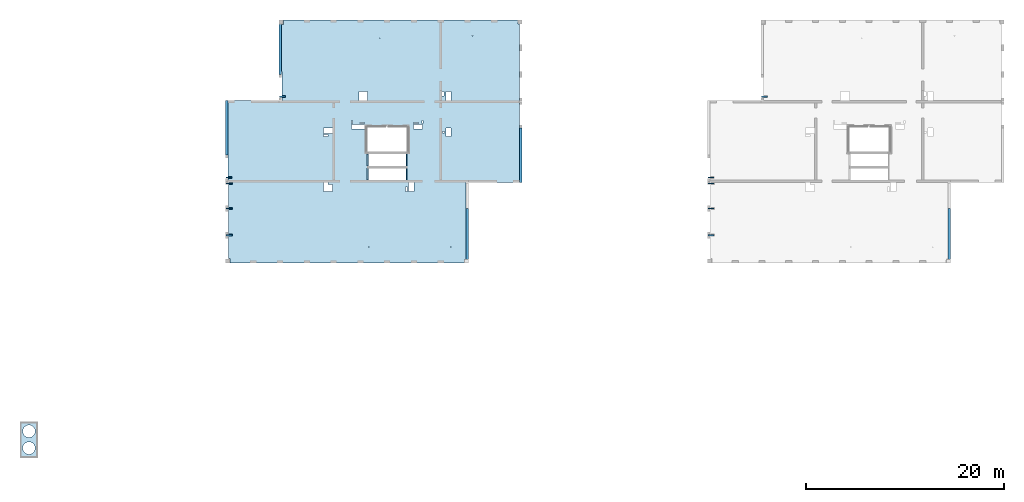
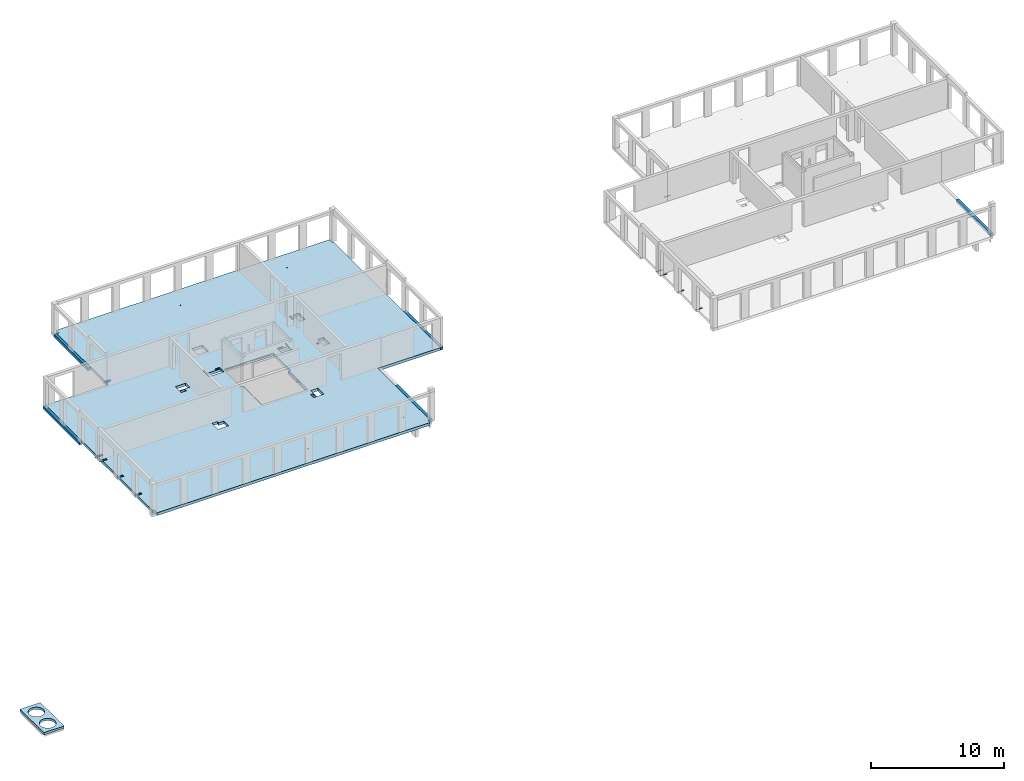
# One storey, part 2 of 12: 10 beams, 7 slabs, 35 openings.
"""IFC2X3 building model written with IfcOpenShell, lengths in millimetres."""

from ifc_helpers import new_model, entity, si_unit, converted_unit, derived_unit, direction, frame, frame_2d, origin, origin_2d_with_axis, place, context, subcontext, project, spatial, polyline, rectangle, circle, outline, extrude, source, transform, mapped, material, layer, layer_set, layer_usage, type_object, type_shapes, element, save


model = new_model("IFC2X3")

# Units and contexts
model_context = context("Model", 3, precision=0.01, world=origin(), true_north=direction((6.12303176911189e-17, 1.0)))
body_context = subcontext(model_context, "Body", "Model", "MODEL_VIEW")
ifc_project = project(units=[si_unit("LENGTHUNIT", "METRE", prefix="MILLI"), si_unit("AREAUNIT", "SQUARE_METRE"), si_unit("VOLUMEUNIT", "CUBIC_METRE"), converted_unit("PLANEANGLEUNIT", "DEGREE", entity("IfcRatioMeasure", 0.0174532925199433), si_unit("PLANEANGLEUNIT", "RADIAN"), dimensions=[0, 0, 0, 0, 0, 0, 0]), si_unit("MASSUNIT", "GRAM", prefix="KILO"), derived_unit("MASSDENSITYUNIT", [(si_unit("MASSUNIT", "GRAM", prefix="KILO"), 1), (si_unit("LENGTHUNIT", "METRE"), -3)]), si_unit("TIMEUNIT", "SECOND"), si_unit("FREQUENCYUNIT", "HERTZ"), si_unit("THERMODYNAMICTEMPERATUREUNIT", "DEGREE_CELSIUS"), derived_unit("THERMALTRANSMITTANCEUNIT", [(si_unit("MASSUNIT", "GRAM", prefix="KILO"), 1), (si_unit("THERMODYNAMICTEMPERATUREUNIT", "KELVIN"), -1), (si_unit("TIMEUNIT", "SECOND"), -3)]), derived_unit("VOLUMETRICFLOWRATEUNIT", [(si_unit("LENGTHUNIT", "METRE"), 3), (si_unit("TIMEUNIT", "SECOND"), -1)]), si_unit("ELECTRICCURRENTUNIT", "AMPERE"), si_unit("ELECTRICVOLTAGEUNIT", "VOLT"), si_unit("POWERUNIT", "WATT"), si_unit("FORCEUNIT", "NEWTON", prefix="KILO"), si_unit("ILLUMINANCEUNIT", "LUX"), si_unit("LUMINOUSFLUXUNIT", "LUMEN"), si_unit("LUMINOUSINTENSITYUNIT", "CANDELA"), derived_unit("USERDEFINED", [(si_unit("MASSUNIT", "GRAM", prefix="KILO"), -1), (si_unit("LENGTHUNIT", "METRE"), -2), (si_unit("TIMEUNIT", "SECOND"), 3), (si_unit("LUMINOUSFLUXUNIT", "LUMEN"), 1)]), derived_unit("LINEARVELOCITYUNIT", [(si_unit("LENGTHUNIT", "METRE"), 1), (si_unit("TIMEUNIT", "SECOND"), -1)]), si_unit("PRESSUREUNIT", "PASCAL"), derived_unit("USERDEFINED", [(si_unit("LENGTHUNIT", "METRE"), -2), (si_unit("MASSUNIT", "GRAM", prefix="KILO"), 1), (si_unit("TIMEUNIT", "SECOND"), -2)])], contexts=[model_context])

# Site, building, storey
site_placement = place(None, origin())
site = spatial("IfcSite", under=ifc_project, at=site_placement, Name="Default", CompositionType="ELEMENT")
building_placement = place(site_placement, origin())
building = spatial("IfcBuilding", under=site, at=building_placement, Name="niet gebruiken", CompositionType="ELEMENT")
storey_placement = place(building_placement, frame((0.0, 0.0, 18540.0)))
storey = spatial("IfcBuildingStorey", under=building, at=storey_placement, Name="06 zesde verdieping", CompositionType="ELEMENT", Elevation=18540.0)

# Beams
ifc_material_1 = material(Name="NLRS_h2_staal")
beam_type_1 = type_object("IfcBeamType", Name="ligger stripstaal RECT_120x10", PredefinedType="BEAM", material=ifc_material_1)
shared_shape_1 = source(origin(), body_context, "Body", "SweptSolid", [
    extrude(rectangle(XDim=599.999999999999, YDim=120.0, at=origin_2d_with_axis()), frame((0.0, 0.0, -5.0), z_axis=(0.0, 0.0, 1.0), x_axis=(-1.0, 0.0, 0.0)), (0.0, 0.0, 1.0), 9.99999999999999),
    extrude(rectangle(XDim=599.999999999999, YDim=120.0, at=origin_2d_with_axis()), frame((0.0, 0.0, -5.0), z_axis=(0.0, 0.0, 1.0), x_axis=(-1.0, 0.0, 0.0)), (0.0, 0.0, 1.0), 9.99999999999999),
])
type_shapes(beam_type_1, [shared_shape_1])
for number, where, name in (
    (1, (27235.0, 31556.0, -115.0), "NLRS_28.11_SF_WPB_stalen ligger stripstaal_gen:ligger stripstaal RECT_120x10"),
    (2, (27235.0, 34256.0, -115.0), "NLRS_28.11_SF_WPB_stalen ligger stripstaal_gen:ligger stripstaal RECT_120x10"),
    (3, (27235.0, 36766.0, -115.0), "NLRS_28.11_SF_WPB_stalen ligger stripstaal_gen:ligger stripstaal RECT_120x10"),
    (4, (75835.0, 31556.0, -115.0), "NLRS_28.11_SF_WPB_stalen ligger stripstaal_gen:ligger stripstaal RECT_120x10"),
    (5, (75835.0, 34256.0, -115.0), "NLRS_28.11_SF_WPB_stalen ligger stripstaal_gen:ligger stripstaal RECT_120x10"),
    (6, (75835.0, 36766.0, -115.0), "NLRS_28.11_SF_WPB_stalen ligger stripstaal_gen:ligger stripstaal RECT_120x10"),
):
    element("IfcBeam", number, at=place(storey_placement, frame(where)), inside=storey, type_object=beam_type_1, material=ifc_material_1, Name=name, ObjectType="ligger stripstaal RECT_120x10", context=body_context, shape_type="MappedRepresentation", body=[
        mapped(shared_shape_1, transform((0.0, 0.0, 0.0), scale=1.0)),
    ])
beam_type_2 = type_object("IfcBeamType", Name="ligger stripstaal RECT_120x10", PredefinedType="BEAM", material=ifc_material_1)
shared_shape_2 = source(origin(), body_context, "Body", "SweptSolid", [
    extrude(rectangle(XDim=120.0, YDim=600.000000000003, at=origin_2d_with_axis()), frame((0.0, 0.0, -5.0), z_axis=(0.0, 0.0, 1.0), x_axis=(0.0, 1.0, 0.0)), (0.0, 0.0, 1.0), 9.99999999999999),
    extrude(rectangle(XDim=120.0, YDim=600.000000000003, at=origin_2d_with_axis()), frame((0.0, 0.0, -5.0), z_axis=(0.0, 0.0, 1.0), x_axis=(0.0, 1.0, 0.0)), (0.0, 0.0, 1.0), 9.99999999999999),
])
type_shapes(beam_type_2, [shared_shape_2])
for number, where, name in (
    (7, (75835.0, 37386.0, -115.0), "NLRS_28.11_SF_WPB_stalen ligger stripstaal_gen:ligger stripstaal RECT_120x10"),
    (8, (27235.0, 37386.0, -115.0), "NLRS_28.11_SF_WPB_stalen ligger stripstaal_gen:ligger stripstaal RECT_120x10"),
    (9, (81235.0, 45521.0, -115.0), "NLRS_28.11_SF_WPB_stalen ligger stripstaal_gen:ligger stripstaal RECT_120x10"),
    (10, (32635.0, 45521.0, -115.0), "NLRS_28.11_SF_WPB_stalen ligger stripstaal_gen:ligger stripstaal RECT_120x10"),
):
    element("IfcBeam", number, at=place(storey_placement, frame(where)), inside=storey, type_object=beam_type_2, material=ifc_material_1, Name=name, ObjectType="ligger stripstaal RECT_120x10", context=body_context, shape_type="MappedRepresentation", body=[
        mapped(shared_shape_2, transform((0.0, 0.0, 0.0), scale=1.0)),
    ])

# Slab, openings
ifc_material_2 = material(Name="NLRS_f2_beton ihwg")
ifc_layer_1 = layer(ifc_material_2, 250.0)
ifc_layer_set_1 = layer_set([ifc_layer_1], Name="Floor:NLRS_23.21_FL_beton ihwg d=250_gen")
ifc_layer_usage_1 = layer_usage(ifc_layer_set_1, "AXIS3", "POSITIVE", 0.0)
slab_1_placement = place(storey_placement, frame((26900.0, 28756.0, -340.0)))
slab_1 = element("IfcSlab", 11, at=slab_1_placement, inside=storey, material=ifc_layer_usage_1, Name="Floor:NLRS_23.21_FL_beton ihwg d=250_gen", ObjectType="Floor:NLRS_23.21_FL_beton ihwg d=250_gen", PredefinedType="FLOOR", context=body_context, shape_type="SweptSolid", body=[
    extrude(outline(polyline([(8994.99996701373, 12250.0), (-14665.0, 12250.0), (-14665.0, 11840.0), (-14805.0, 11840.0), (-14805.0, 4060.0), (-14825.0, 4060.0), (-14825.0, -4150.0), (-9425.0, -4150.0), (-9425.0, -11890.0), (-9265.00003298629, -11890.0), (-9265.00003298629, -12250.0), (14395.0, -12250.0), (14395.0, -11820.0), (14535.0, -11820.0), (14535.0, -4060.0), (14555.0, -4060.0), (14555.0, -1350.0), (14825.0, -1350.0), (14825.0, 4150.0), (9155.0, 4150.0), (9155.0, 7060.0), (9175.0, 7060.0), (9175.0, 11820.0), (8994.99996701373, 11820.0), (8994.99996701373, 12250.0)])), frame((14825.0, 12250.0, 250.0), z_axis=(0.0, 0.0, -1.0), x_axis=(-1.0, 0.0, 0.0)), (0.0, 0.0, 1.0), 249.999999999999),
])
opening_1_placement = place(storey_placement, frame((26900.0, 28756.0, -340.0)))
element("IfcOpeningElement", 12, at=opening_1_placement, cuts=slab_1, ObjectType="Opening", context=body_context, shape_type="SweptSolid", body=[
    extrude(circle(Radius=37.5, at=frame_2d((-7875.0, -10650.0), x_axis=(1.0, 0.0))), frame((14825.0, 12250.0, 250.0), z_axis=(0.0, 0.0, -1.0), x_axis=(-1.0, 0.0, 0.0)), (0.0, 0.0, 1.0), 249.999999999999),
])
opening_2_placement = place(storey_placement, frame((26900.0, 28756.0, -340.0)))
element("IfcOpeningElement", 13, at=opening_2_placement, cuts=slab_1, ObjectType="Opening", context=body_context, shape_type="SweptSolid", body=[
    extrude(circle(Radius=37.5, at=frame_2d((-10075.0, 10650.0), x_axis=(1.0, 0.0))), frame((14825.0, 12250.0, 250.0), z_axis=(0.0, 0.0, -1.0), x_axis=(-1.0, 0.0, 0.0)), (0.0, 0.0, 1.0), 249.999999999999),
])
opening_3_placement = place(storey_placement, frame((26900.0, 28756.0, -340.0)))
element("IfcOpeningElement", 14, at=opening_3_placement, cuts=slab_1, ObjectType="Opening", context=body_context, shape_type="SweptSolid", body=[
    extrude(circle(Radius=37.5, at=frame_2d((-725.0, 10400.0), x_axis=(1.0, 0.0))), frame((14825.0, 12250.0, 250.0), z_axis=(0.0, 0.0, -1.0), x_axis=(-1.0, 0.0, 0.0)), (0.0, 0.0, 1.0), 249.999999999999),
])
opening_4_placement = place(storey_placement, frame((26900.0, 28756.0, -340.0)))
element("IfcOpeningElement", 15, at=opening_4_placement, cuts=slab_1, ObjectType="Opening", context=body_context, shape_type="SweptSolid", body=[
    extrude(circle(Radius=37.5, at=frame_2d((375.0, -10650.0), x_axis=(1.0, 0.0))), frame((14825.0, 12250.0, 250.0), z_axis=(0.0, 0.0, -1.0), x_axis=(-1.0, 0.0, 0.0)), (0.0, 0.0, 1.0), 249.999999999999),
])
opening_5_placement = place(slab_1_placement, origin())
element("IfcOpeningElement", 16, at=opening_5_placement, cuts=slab_1, ObjectType="Opening", context=body_context, shape_type="SweptSolid", body=[
    extrude(rectangle(XDim=110.000000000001, YDim=1220.0, at=origin_2d_with_axis()), frame((14344.9999671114, 10380.0, 210.0)), (0.0, 0.0, 1.0), 39.9999999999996),
])
opening_6_placement = place(slab_1_placement, origin())
element("IfcOpeningElement", 17, at=opening_6_placement, cuts=slab_1, ObjectType="Opening", context=body_context, shape_type="SweptSolid", body=[
    extrude(rectangle(XDim=110.000000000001, YDim=1220.0, at=origin_2d_with_axis()), frame((18255.0, 10380.0, 210.0)), (0.0, 0.0, 1.0), 39.9999999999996),
])
opening_7_placement = place(slab_1_placement, origin())
element("IfcOpeningElement", 18, at=opening_7_placement, cuts=slab_1, ObjectType="Opening", context=body_context, shape_type="SweptSolid", body=[
    extrude(rectangle(XDim=110.000000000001, YDim=1220.0, at=origin_2d_with_axis()), frame((18255.0, 8960.0, 210.0)), (0.0, 0.0, 1.0), 39.9999999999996),
])
opening_8_placement = place(slab_1_placement, origin())
element("IfcOpeningElement", 19, at=opening_8_placement, cuts=slab_1, ObjectType="Opening", context=body_context, shape_type="SweptSolid", body=[
    extrude(rectangle(XDim=110.000000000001, YDim=1220.0, at=origin_2d_with_axis()), frame((14344.9997832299, 8960.0, 210.0)), (0.0, 0.0, 1.0), 39.9999999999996),
])
opening_9_placement = place(slab_1_placement, origin())
element("IfcOpeningElement", 20, at=opening_9_placement, cuts=slab_1, ObjectType="Opening", context=body_context, shape_type="SweptSolid", body=[
    extrude(rectangle(XDim=200.000000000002, YDim=400.000000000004, at=origin_2d_with_axis()), frame((490.0, 2800.0, 220.0), z_axis=(0.0, 0.0, 1.0), x_axis=(0.0, -1.0, 0.0)), (0.0, 0.0, 1.0), 29.9999999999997),
])
opening_10_placement = place(slab_1_placement, origin())
element("IfcOpeningElement", 21, at=opening_10_placement, cuts=slab_1, ObjectType="Opening", context=body_context, shape_type="SweptSolid", body=[
    extrude(rectangle(XDim=200.000000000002, YDim=400.000000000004, at=origin_2d_with_axis()), frame((490.0, 5500.0, 220.0), z_axis=(0.0, 0.0, 1.0), x_axis=(0.0, -1.0, 0.0)), (0.0, 0.0, 1.0), 29.9999999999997),
])
opening_11_placement = place(slab_1_placement, origin())
element("IfcOpeningElement", 22, at=opening_11_placement, cuts=slab_1, ObjectType="Opening", context=body_context, shape_type="SweptSolid", body=[
    extrude(rectangle(XDim=200.000000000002, YDim=400.000000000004, at=origin_2d_with_axis()), frame((490.0, 8000.0, 220.0), z_axis=(0.0, 0.0, 1.0), x_axis=(0.0, -1.0, 0.0)), (0.0, 0.0, 1.0), 29.9999999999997),
])
opening_12_placement = place(slab_1_placement, origin())
element("IfcOpeningElement", 23, at=opening_12_placement, cuts=slab_1, ObjectType="Opening", context=body_context, shape_type="SweptSolid", body=[
    extrude(rectangle(XDim=400.000000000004, YDim=200.000000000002, at=origin_2d_with_axis()), frame((470.0, 8630.0, 220.0)), (0.0, 0.0, 1.0), 29.9999999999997),
])
opening_13_placement = place(slab_1_placement, origin())
element("IfcOpeningElement", 24, at=opening_13_placement, cuts=slab_1, ObjectType="Opening", context=body_context, shape_type="SweptSolid", body=[
    extrude(rectangle(XDim=400.000000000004, YDim=199.999999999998, at=origin_2d_with_axis()), frame((5870.0, 16765.0, 220.0)), (0.0, 0.0, 1.0), 29.9999999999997),
])
opening_14_placement = place(slab_1_placement, origin())
element("IfcOpeningElement", 25, at=opening_14_placement, cuts=slab_1, ObjectType="Opening", context=body_context, shape_type="SweptSolid", body=[
    extrude(rectangle(XDim=900.000000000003, YDim=700.000000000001, at=origin_2d_with_axis()), frame((10325.0, 7550.0, 0.0), z_axis=(0.0, 0.0, 1.0), x_axis=(-1.0, 0.0, 0.0)), (0.0, 0.0, 1.0), 249.999999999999),
])
opening_15_placement = place(slab_1_placement, origin())
element("IfcOpeningElement", 26, at=opening_15_placement, cuts=slab_1, ObjectType="Opening", context=body_context, shape_type="SweptSolid", body=[
    extrude(rectangle(XDim=200.000000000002, YDim=450.000000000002, at=origin_2d_with_axis()), frame((10100.0, 8000.0, 0.0), z_axis=(0.0, 0.0, 1.0), x_axis=(0.0, -1.0, 0.0)), (0.0, 0.0, 1.0), 249.999999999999),
])
opening_16_placement = place(slab_1_placement, origin())
element("IfcOpeningElement", 27, at=opening_16_placement, cuts=slab_1, ObjectType="Opening", context=body_context, shape_type="SweptSolid", body=[
    extrude(rectangle(XDim=900.000000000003, YDim=499.999999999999, at=origin_2d_with_axis()), frame((22475.0, 13180.0, 0.0), z_axis=(0.0, 0.0, 1.0), x_axis=(0.0, 1.0, 0.0)), (0.0, 0.0, 1.0), 249.999999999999),
])
opening_17_placement = place(slab_1_placement, origin())
element("IfcOpeningElement", 28, at=opening_17_placement, cuts=slab_1, ObjectType="Opening", context=body_context, shape_type="SweptSolid", body=[
    extrude(rectangle(XDim=450.000000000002, YDim=900.000000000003, at=origin_2d_with_axis()), frame((19430.0, 13720.0, 0.0), z_axis=(0.0, 0.0, 1.0), x_axis=(0.0, -1.0, 0.0)), (0.0, 0.0, 1.0), 249.999999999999),
])
opening_18_placement = place(slab_1_placement, origin())
element("IfcOpeningElement", 29, at=opening_18_placement, cuts=slab_1, ObjectType="Opening", context=body_context, shape_type="SweptSolid", body=[
    extrude(rectangle(XDim=900.000000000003, YDim=900.000000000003, at=origin_2d_with_axis()), frame((13885.0, 16850.0, 0.0), z_axis=(0.0, 0.0, 1.0), x_axis=(-1.0, 0.0, 0.0)), (0.0, 0.0, 1.0), 249.999999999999),
])
opening_19_placement = place(slab_1_placement, origin())
element("IfcOpeningElement", 30, at=opening_19_placement, cuts=slab_1, ObjectType="Opening", context=body_context, shape_type="SweptSolid", body=[
    extrude(rectangle(XDim=900.000000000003, YDim=600.000000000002, at=origin_2d_with_axis()), frame((10325.0, 13330.0, 0.0), z_axis=(0.0, 0.0, 1.0), x_axis=(-1.0, 0.0, 0.0)), (0.0, 0.0, 1.0), 249.999999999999),
])
opening_20_placement = place(slab_1_placement, origin())
element("IfcOpeningElement", 31, at=opening_20_placement, cuts=slab_1, ObjectType="Opening", context=body_context, shape_type="SweptSolid", body=[
    extrude(rectangle(XDim=900.000000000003, YDim=499.999999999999, at=origin_2d_with_axis()), frame((22475.0, 16850.0, 0.0), z_axis=(0.0, 0.0, 1.0), x_axis=(0.0, 1.0, 0.0)), (0.0, 0.0, 1.0), 249.999999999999),
])
opening_21_placement = place(slab_1_placement, origin())
element("IfcOpeningElement", 32, at=opening_21_placement, cuts=slab_1, ObjectType="Opening", context=body_context, shape_type="SweptSolid", body=[
    extrude(rectangle(XDim=899.999999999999, YDim=600.000000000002, at=origin_2d_with_axis()), frame((18729.9818996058, 7650.0, 0.0), z_axis=(0.0, 0.0, 1.0), x_axis=(0.0, 1.0, 0.0)), (0.0, 0.0, 1.0), 249.999999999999),
])
opening_22_placement = place(slab_1_placement, origin())
element("IfcOpeningElement", 33, at=opening_22_placement, cuts=slab_1, ObjectType="Opening", context=body_context, shape_type="SweptSolid", body=[
    extrude(rectangle(XDim=1760.00000000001, YDim=23.0000000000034, at=origin_2d_with_axis()), frame((17354.999849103, 13751.5, 180.0)), (0.0, 0.0, 1.0), 39.9999999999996),
])
opening_23_placement = place(slab_1_placement, origin())
element("IfcOpeningElement", 34, at=opening_23_placement, cuts=slab_1, ObjectType="Opening", context=body_context, shape_type="SweptSolid", body=[
    extrude(rectangle(XDim=1760.00000000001, YDim=23.0000000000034, at=origin_2d_with_axis()), frame((15244.9998491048, 13751.5, 180.0)), (0.0, 0.0, 1.0), 39.9999999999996),
])
opening_24_placement = place(slab_1_placement, origin())
element("IfcOpeningElement", 35, at=opening_24_placement, cuts=slab_1, ObjectType="Opening", context=body_context, shape_type="SweptSolid", body=[
    extrude(rectangle(XDim=100.000000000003, YDim=490.000000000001, at=origin_2d_with_axis()), frame((19225.0, 14090.0, 0.0), z_axis=(0.0, 0.0, 1.0), x_axis=(0.0, -1.0, 0.0)), (0.0, 0.0, 1.0), 249.999999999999),
])
opening_25_placement = place(slab_1_placement, origin())
element("IfcOpeningElement", 36, at=opening_25_placement, cuts=slab_1, ObjectType="Opening", context=body_context, shape_type="SweptSolid", body=[
    extrude(rectangle(XDim=100.000000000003, YDim=340.000000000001, at=origin_2d_with_axis()), frame((19865.0, 14210.0, 0.0), z_axis=(0.0, 0.0, 1.0), x_axis=(-1.0, 0.0, 0.0)), (0.0, 0.0, 1.0), 249.999999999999),
])
opening_26_placement = place(slab_1_placement, origin())
element("IfcOpeningElement", 37, at=opening_26_placement, cuts=slab_1, ObjectType="Opening", context=body_context, shape_type="SweptSolid", body=[
    extrude(rectangle(XDim=100.000000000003, YDim=440.000000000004, at=origin_2d_with_axis()), frame((13805.0, 14090.0, 0.0), z_axis=(0.0, 0.0, 1.0), x_axis=(0.0, -1.0, 0.0)), (0.0, 0.0, 1.0), 249.999999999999),
])
opening_27_placement = place(slab_1_placement, origin())
element("IfcOpeningElement", 38, at=opening_27_placement, cuts=slab_1, ObjectType="Opening", context=body_context, shape_type="SweptSolid", body=[
    extrude(rectangle(XDim=100.000000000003, YDim=340.000000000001, at=origin_2d_with_axis()), frame((12755.0, 14210.0, 0.0), z_axis=(0.0, 0.0, 1.0), x_axis=(-1.0, 0.0, 0.0)), (0.0, 0.0, 1.0), 249.999999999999),
])
opening_28_placement = place(slab_1_placement, origin())
element("IfcOpeningElement", 39, at=opening_28_placement, cuts=slab_1, ObjectType="Opening", context=body_context, shape_type="SweptSolid", body=[
    extrude(circle(Radius=100.0, at=origin_2d_with_axis()), frame((21975.0, 13180.0, 0.0), z_axis=(0.0, 0.0, 1.0), x_axis=(-1.0, 0.0, 0.0)), (0.0, 0.0, 1.0), 249.999999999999),
])
opening_29_placement = place(slab_1_placement, origin())
element("IfcOpeningElement", 40, at=opening_29_placement, cuts=slab_1, ObjectType="Opening", context=body_context, shape_type="SweptSolid", body=[
    extrude(rectangle(XDim=220.000000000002, YDim=450.000000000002, at=origin_2d_with_axis()), frame((21935.0, 17075.0, 0.0), z_axis=(0.0, 0.0, 1.0), x_axis=(-1.0, 0.0, 0.0)), (0.0, 0.0, 1.0), 249.999999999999),
])
opening_30_placement = place(slab_1_placement, origin())
element("IfcOpeningElement", 41, at=opening_30_placement, cuts=slab_1, ObjectType="Opening", context=body_context, shape_type="SweptSolid", body=[
    extrude(rectangle(XDim=230.0, YDim=450.000000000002, at=origin_2d_with_axis()), frame((10100.0000865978, 12845.0002270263, 0.0), z_axis=(0.0, 0.0, 1.0), x_axis=(0.0, -1.0, 0.0)), (0.0, 0.0, 1.0), 249.999999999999),
])
opening_31_placement = place(slab_1_placement, origin())
element("IfcOpeningElement", 42, at=opening_31_placement, cuts=slab_1, ObjectType="Opening", context=body_context, shape_type="SweptSolid", body=[
    extrude(rectangle(XDim=220.000000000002, YDim=450.000000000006, at=origin_2d_with_axis()), frame((18240.0, 7425.0, 0.0)), (0.0, 0.0, 1.0), 249.999999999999),
])
opening_32_placement = place(slab_1_placement, origin())
element("IfcOpeningElement", 43, at=opening_32_placement, cuts=slab_1, ObjectType="Opening", context=body_context, shape_type="SweptSolid", body=[
    extrude(rectangle(XDim=440.000000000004, YDim=1320.0, at=origin_2d_with_axis()), frame((13365.0, 13720.0, 0.0), z_axis=(0.0, 0.0, 1.0), x_axis=(0.0, -1.0, 0.0)), (0.0, 0.0, 1.0), 249.999999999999),
])
opening_33_placement = place(slab_1_placement, frame((16300.0, 10378.75, 250.0)))
element("IfcOpeningElement", 44, at=opening_33_placement, cuts=slab_1, Name="Floor:NLRS_23.21_FL_beton ihwg d=250_gen:2", ObjectType="Opening", context=body_context, shape_type="SweptSolid", body=[
    extrude(outline(polyline([(-3361.25000000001, -2135.00001644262), (-751.250000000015, -2135.00001644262), (-751.250000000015, -1899.99998355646), (608.750000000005, -1899.99998355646), (608.750000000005, -2000.00001644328), (808.750000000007, -2000.00001644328), (808.750000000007, -1899.99998355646), (2028.75, -1899.99998355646), (2028.75, 1900.00001644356), (808.749999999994, 1900.00001644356), (808.749999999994, 1999.99998355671), (608.749999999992, 1999.99998355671), (608.749999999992, 1900.00001644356), (-751.250000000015, 1900.00001644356), (-751.250000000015, 2134.99998355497), (-3361.25000000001, 2134.99998355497), (-3361.25000000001, -2135.00001644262)])), frame((0.0, 0.0, 0.0), z_axis=(0.0, 0.0, -1.0), x_axis=(0.0, -1.0, 0.0)), (0.0, 0.0, 1.0), 249.999999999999),
])

# Slabs
ifc_layer_usage_2 = layer_usage(ifc_layer_set_1, "AXIS3", "POSITIVE", 0.0)
slab_2_placement = place(storey_placement, origin())
element("IfcSlab", 45, at=slab_2_placement, inside=storey, material=ifc_layer_usage_2, Name="Floor:NLRS_23.21_FL_beton ihwg d=250_gen", ObjectType="Floor:NLRS_23.21_FL_beton ihwg d=250_gen", PredefinedType="FLOOR", context=body_context, shape_type="SweptSolid", body=[
    extrude(rectangle(XDim=5140.00000000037, YDim=250.000065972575, at=origin_2d_with_axis()), frame((99875.0, 31686.0, -90.0), z_axis=(0.0, 0.0, -1.0), x_axis=(0.0, 1.0, 0.0)), (0.0, 0.0, 1.0), 249.999999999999),
])
ifc_layer_usage_3 = layer_usage(ifc_layer_set_1, "AXIS3", "POSITIVE", 0.0)
slab_3_placement = place(storey_placement, origin())
element("IfcSlab", 46, at=slab_3_placement, inside=storey, material=ifc_layer_usage_3, Name="Floor:NLRS_23.21_FL_beton ihwg d=250_gen", ObjectType="Floor:NLRS_23.21_FL_beton ihwg d=250_gen", PredefinedType="FLOOR", context=body_context, shape_type="SweptSolid", body=[
    extrude(rectangle(XDim=5140.00000000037, YDim=250.000065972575, at=origin_2d_with_axis()), frame((51275.0, 31686.0, -90.0), z_axis=(0.0, 0.0, -1.0), x_axis=(0.0, 1.0, 0.0)), (0.0, 0.0, 1.0), 249.999999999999),
])
ifc_layer_usage_4 = layer_usage(ifc_layer_set_1, "AXIS3", "POSITIVE", 0.0)
slab_4_placement = place(storey_placement, origin())
element("IfcSlab", 47, at=slab_4_placement, inside=storey, material=ifc_layer_usage_4, Name="Floor:NLRS_23.21_FL_beton ihwg d=250_gen", ObjectType="Floor:NLRS_23.21_FL_beton ihwg d=250_gen", PredefinedType="FLOOR", context=body_context, shape_type="SweptSolid", body=[
    extrude(rectangle(XDim=5089.99999999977, YDim=249.999999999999, at=frame_2d((-4.32009983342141e-12, -2.16715534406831e-12), x_axis=(1.0, 0.0))), frame((32425.0, 50301.0, -90.0), z_axis=(0.0, 0.0, -1.0), x_axis=(0.0, 1.0, 0.0)), (0.0, 0.0, 1.0), 249.999999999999),
])
ifc_layer_usage_5 = layer_usage(ifc_layer_set_1, "AXIS3", "POSITIVE", 0.0)
slab_5_placement = place(storey_placement, origin())
element("IfcSlab", 48, at=slab_5_placement, inside=storey, material=ifc_layer_usage_5, Name="Floor:NLRS_23.21_FL_beton ihwg d=250_gen", ObjectType="Floor:NLRS_23.21_FL_beton ihwg d=250_gen", PredefinedType="FLOOR", context=body_context, shape_type="SweptSolid", body=[
    extrude(rectangle(XDim=5499.99999999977, YDim=250.000000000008, at=frame_2d((0.0, 2.16715534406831e-12), x_axis=(1.0, 0.0))), frame((27025.0, 42406.0, -90.0), z_axis=(0.0, 0.0, -1.0), x_axis=(0.0, 1.0, 0.0)), (0.0, 0.0, 1.0), 249.999999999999),
])
ifc_layer_usage_6 = layer_usage(ifc_layer_set_1, "AXIS3", "POSITIVE", 0.0)
slab_6_placement = place(storey_placement, origin())
element("IfcSlab", 49, at=slab_6_placement, inside=storey, material=ifc_layer_usage_6, Name="Floor:NLRS_23.21_FL_beton ihwg d=250_gen", ObjectType="Floor:NLRS_23.21_FL_beton ihwg d=250_gen", PredefinedType="FLOOR", context=body_context, shape_type="SweptSolid", body=[
    extrude(rectangle(XDim=5500.00000000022, YDim=250.000000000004, at=frame_2d((0.0, 4.33431068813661e-12), x_axis=(1.0, 0.0))), frame((56675.0, 39606.0, -90.0), z_axis=(0.0, 0.0, -1.0), x_axis=(0.0, 1.0, 0.0)), (0.0, 0.0, 1.0), 249.999999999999),
])

# Slab, openings
ifc_material_3 = material(Name="NLRS_f2_beton prefab")
ifc_layer_2 = layer(ifc_material_3, 200.0)
ifc_layer_set_2 = layer_set([ifc_layer_2], Name="Floor:NLRS_23.21_FL_beton prefab d=200_gen")
ifc_layer_usage_7 = layer_usage(ifc_layer_set_2, "AXIS3", "POSITIVE", 0.0)
slab_7_placement = place(storey_placement, frame((6195.0, 9156.0, -1145.0)))
slab_7 = element("IfcSlab", 50, at=slab_7_placement, inside=storey, material=ifc_layer_usage_7, Name="Floor:NLRS_23.21_FL_beton prefab d=200_gen", ObjectType="Floor:NLRS_23.21_FL_beton prefab d=200_gen", PredefinedType="FLOOR", context=body_context, shape_type="SweptSolid", body=[
    extrude(rectangle(XDim=3560.0, YDim=1759.99999999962, at=frame_2d((0.0, 0.0), x_axis=(0.0, -1.0))), frame((880.0, 1780.0, 200.0), z_axis=(0.0, 0.0, -1.0), x_axis=(-1.0, 0.0, 0.0)), (0.0, 0.0, 1.0), 200.0),
])
opening_34_placement = place(slab_7_placement, frame((880.0, 2630.0, 200.0)))
element("IfcOpeningElement", 51, at=opening_34_placement, cuts=slab_7, Name="Floor:NLRS_23.21_FL_beton prefab d=200_gen:2", ObjectType="Opening", context=body_context, shape_type="SweptSolid", body=[
    extrude(circle(Radius=625.0, at=origin_2d_with_axis()), frame((0.0, 0.0, 0.0), z_axis=(0.0, 0.0, -1.0), x_axis=(1.0, 0.0, 0.0)), (0.0, 0.0, 1.0), 200.0),
])
opening_35_placement = place(slab_7_placement, frame((880.0, 930.0, 200.0)))
element("IfcOpeningElement", 52, at=opening_35_placement, cuts=slab_7, Name="Floor:NLRS_23.21_FL_beton prefab d=200_gen:3", ObjectType="Opening", context=body_context, shape_type="SweptSolid", body=[
    extrude(circle(Radius=625.0, at=origin_2d_with_axis()), frame((0.0, 0.0, 0.0), z_axis=(0.0, 0.0, -1.0), x_axis=(1.0, 0.0, 0.0)), (0.0, 0.0, 1.0), 200.0),
])

save(model, "model.ifc")
